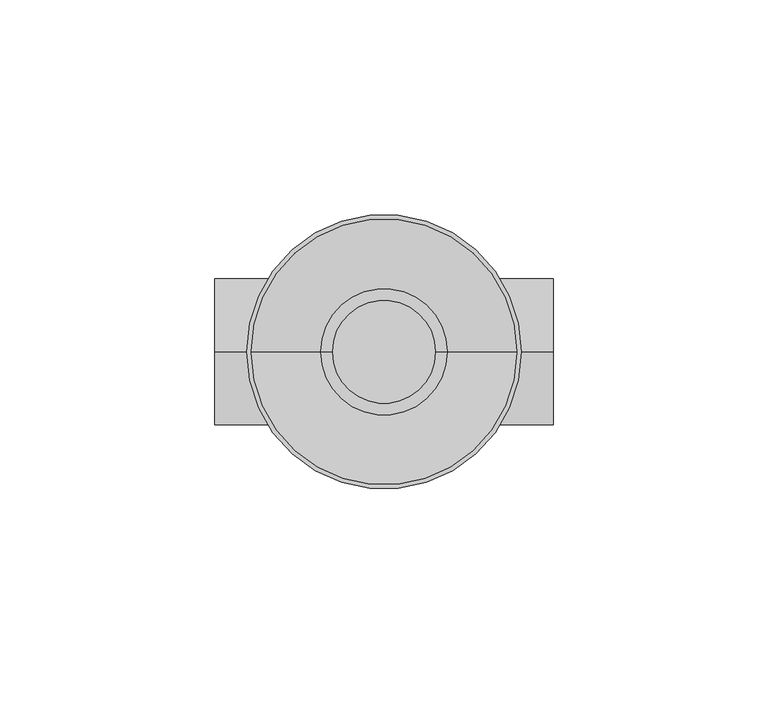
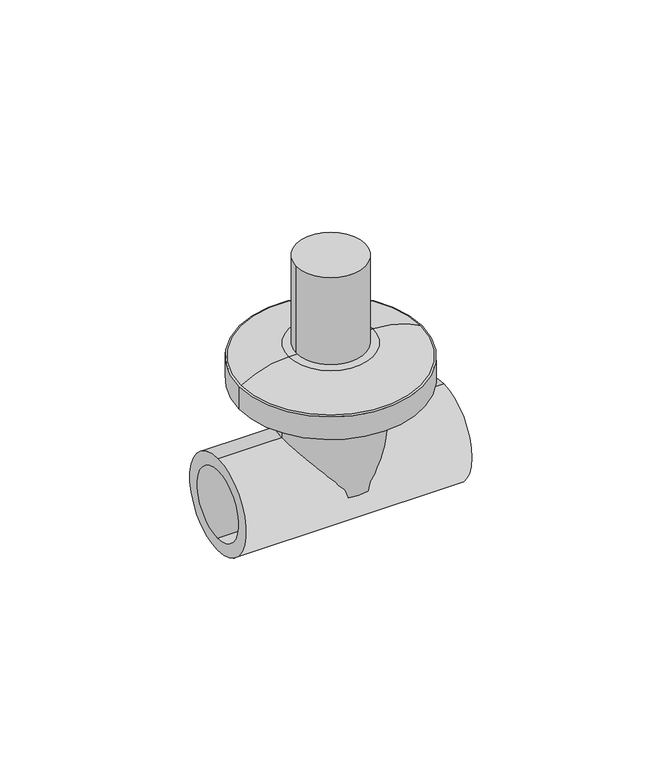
"""IFC4 building model written with IfcOpenShell, lengths in millimetres: valve geometry, EGB_VASEN_ PPR_Valvula oculta WXR870 : Válvula oculta WXR870."""

from ifc_helpers import new_model, si_unit, point, frame, origin, origin_with_axes, origin_2d, place, context, project, spatial, circle_curve, ellipse_curve, trimmed, segment, composite_curve, outline, extrude, source, transform, mapped, element, save
from ifc_brep_helpers import plane_surface, revolved_surface, advanced_brep


def valve_981ec3f7(model_context):
    return source(origin(), model_context, "Body", "SolidModel", [
        extrude(outline(composite_curve([segment(trimmed(circle_curve(origin_2d(), 32.0), [point((-32.0, 0.0))], [point((32.0, 0.0))], False, "CARTESIAN"), True, "CONTINUOUS"), segment(trimmed(circle_curve(origin_2d(), 32.0), [point((32.0, 0.0))], [point((-32.0, 0.0))], False, "CARTESIAN"), True, "CONTINUOUS")], self_intersect=False)), frame((0.0, 0.0, 32.6), z_axis=(0.0, 0.0, 1.0), x_axis=(1.0, 0.0, 0.0)), (0.0, 0.0, 1.0), 8.4),
        advanced_brep(
        [(0.0, 0.0, 41.0), (-32.0, 0.0, 41.0), (32.0, 0.0, 41.0), (14.7160328, 0.0, 46.0), (-14.7160328, 0.0, 46.0), (0.0, 0.0, 46.0)],
        [
            (0, 1),
            (1, 2, circle_curve(frame((0.0, 0.0, 41.0), z_axis=(0.0, 0.0, -1.0), x_axis=(-1.0, 0.0, 0.0)), 32.0)),
            (2, 0),
            (2, 1, circle_curve(frame((0.0, 0.0, 41.0), z_axis=(0.0, 0.0, -1.0), x_axis=(-1.0, 0.0, 0.0)), 32.0)),
            (3, 4, circle_curve(frame((0.0, 0.0, 46.0), z_axis=(0.0, 0.0, 1.0), x_axis=(-1.0, 0.0, 0.0)), 14.7160328)),
            (4, 5),
            (5, 3),
            (4, 3, circle_curve(frame((0.0, 0.0, 46.0), z_axis=(0.0, 0.0, 1.0), x_axis=(-1.0, 0.0, 0.0)), 14.7160328)),
            (1, 4, circle_curve(frame((-14.7160328, 0.0, 13.6264477), z_axis=(0.0, 1.0, 0.0), x_axis=(1.0, 0.0, 0.0)), 32.3735523)),
            (3, 2, circle_curve(frame((14.7160328, 0.0, 13.6264477), z_axis=(0.0, 1.0, 0.0), x_axis=(-1.0, 0.0, 0.0)), 32.3735523)),
        ],
        [
            plane_surface(frame((0.0, 0.0, 41.0), z_axis=(0.0, 0.0, -1.0), x_axis=(-1.0, 0.0, 0.0))),
            plane_surface(frame((0.0, 0.0, 46.0), z_axis=(0.0, 0.0, 1.0), x_axis=(-1.0, 0.0, 0.0))),
            revolved_surface(trimmed(ellipse_curve(frame((-14.7160328, 0.0, 13.6264477), z_axis=(0.0, -1.0, 0.0), x_axis=(1.0, 0.0, 0.0)), 32.3735523, 32.3735523), [point((-14.7160328, 0.0, 46.0))], [point((-32.0, 0.0, 41.0))], True, "CARTESIAN"), (0.0, 0.0, 46.0), (0.0, 0.0, -1.0)),
        ],
        [
            (0, [[1, 2, 3]]),
            (0, [[-3, 4, -1]]),
            (1, [[5, 6, 7]]),
            (1, [[8, -7, -6]]),
            (2, [[-2, 9, -5, 10]]),
            (2, [[-4, -10, -8, -9]]),
        ],
    ),
        extrude(outline(composite_curve([segment(trimmed(circle_curve(origin_2d(), 12.0), [point((-12.0, 0.0))], [point((12.0, 0.0))], False, "CARTESIAN"), True, "CONTINUOUS"), segment(trimmed(circle_curve(origin_2d(), 12.0), [point((12.0, 0.0))], [point((-12.0, 0.0))], False, "CARTESIAN"), True, "CONTINUOUS")], self_intersect=False)), frame((0.0, 0.0, 46.0), z_axis=(0.0, 0.0, 1.0), x_axis=(1.0, 0.0, 0.0)), (0.0, 0.0, 1.0), 32.5),
        extrude(outline(composite_curve([segment(trimmed(circle_curve(origin_2d(), 17.0), [point((-17.0, 0.0))], [point((17.0, 0.0))], False, "CARTESIAN"), True, "CONTINUOUS"), segment(trimmed(circle_curve(origin_2d(), 17.0), [point((17.0, 0.0))], [point((-17.0, 0.0))], False, "CARTESIAN"), True, "CONTINUOUS")], self_intersect=False)), origin_with_axes(), (0.0, 0.0, 1.0), 33.5),
        extrude(outline(composite_curve([segment(trimmed(circle_curve(origin_2d(), 17.0), [point((0.0, -17.0))], [point((0.0, 17.0))], False, "CARTESIAN"), True, "CONTINUOUS"), segment(trimmed(circle_curve(origin_2d(), 17.0), [point((0.0, 17.0))], [point((0.0, -17.0))], False, "CARTESIAN"), True, "CONTINUOUS")], self_intersect=False), holes=[composite_curve([segment(trimmed(circle_curve(origin_2d(), 12.5), [point((0.0, -12.5))], [point((0.0, 12.5))], True, "CARTESIAN"), True, "CONTINUOUS"), segment(trimmed(circle_curve(origin_2d(), 12.5), [point((0.0, 12.5))], [point((0.0, -12.5))], True, "CARTESIAN"), True, "CONTINUOUS")], self_intersect=False)]), frame((-39.5, 0.0, 0.0), z_axis=(1.0, 0.0, 0.0), x_axis=(0.0, 1.0, 0.0)), (0.0, 0.0, 1.0), 79.0),
    ])


if __name__ == "__main__":
    model = new_model("IFC4")
    model_context = context("Model", 3, world=origin())
    ifc_project = project(units=[si_unit("LENGTHUNIT", "METRE", prefix="MILLI")], contexts=[model_context])
    site = spatial("IfcSite", under=ifc_project)
    building = spatial("IfcBuilding", under=site)
    placement = place(None, origin())
    valve_shape = valve_981ec3f7(model_context)
    element("IfcValve", 1, ObjectType="EGB_VASEN_ PPR_Valvula oculta WXR870 : Válvula oculta WXR870", at=placement, inside=building, context=model_context, shape_type="MappedRepresentation", body=[
        mapped(valve_shape, transform((0.0, 0.0, 0.0), x_axis=(1.0, 0.0, 0.0), y_axis=(0.0, 1.0, 0.0), z_axis=(0.0, 0.0, 1.0))),
    ])
    save(model, "model.ifc")
